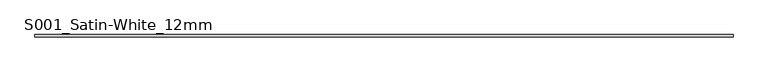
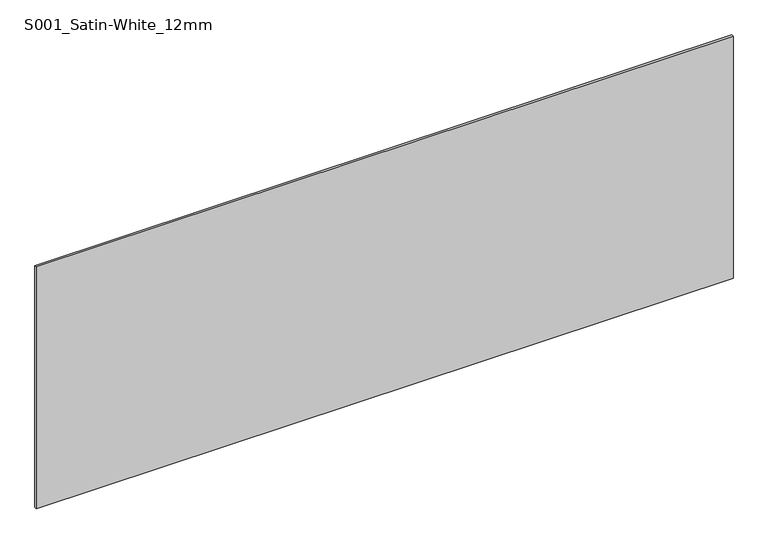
"""IFC4 building model written with IfcOpenShell, lengths in millimetres: plate geometry, Curtain-Panels_Outdoor-Material_HI-MACS_Solids : S001_Satin-White_12mm."""

from ifc_helpers import new_model, si_unit, origin, origin_with_axes, place, context, project, spatial, polyline, outline, extrude, source, transform, mapped, element, save


def s001_satin_white_12mm_c1b55f6d(model_context):
    return source(origin(), model_context, "Body", "SweptSolid", [
        extrude(outline(polyline([(1840.0, 6.0), (1840.0, -6.0), (-1840.0, -6.0), (-1840.0, 6.0), (1840.0, 6.0)])), origin_with_axes(), (0.0, 0.0, 1.0), 1350.0),
    ])


if __name__ == "__main__":
    model = new_model("IFC4")
    model_context = context("Model", 3, world=origin())
    ifc_project = project(units=[si_unit("LENGTHUNIT", "METRE", prefix="MILLI")], contexts=[model_context])
    site = spatial("IfcSite", under=ifc_project)
    building = spatial("IfcBuilding", under=site)
    placement = place(None, origin())
    s001_satin_white_12mm_shape = s001_satin_white_12mm_c1b55f6d(model_context)
    element("IfcPlate", 1, ObjectType="Curtain-Panels_Outdoor-Material_HI-MACS_Solids : S001_Satin-White_12mm", at=placement, inside=building, context=model_context, shape_type="MappedRepresentation", body=[
        mapped(s001_satin_white_12mm_shape, transform((0.0, 0.0, 0.0), x_axis=(1.0, 0.0, 0.0), y_axis=(0.0, 1.0, 0.0), z_axis=(0.0, 0.0, 1.0))),
    ])
    save(model, "model.ifc")
